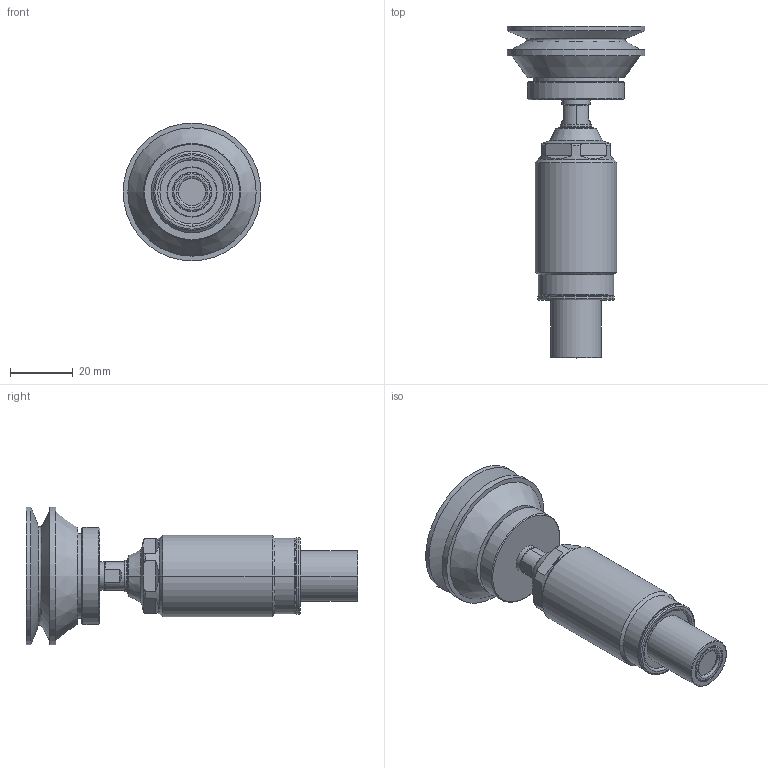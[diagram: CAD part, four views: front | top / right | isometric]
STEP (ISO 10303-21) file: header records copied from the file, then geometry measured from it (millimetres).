
FILE_DESCRIPTION(/* description */ (''),/* implementation_level */ '2;1');
FILE_NAME(/* name */ 'TNL26-Q-D加长吸附型.stp',/* time_stamp */ '2024-12-09T14:42:13+08:00',/* author */ (''),/* organization */ (''),/* preprocessor_version */ 'ST-DEVELOPER v16.7',/* originating_system */ 'SIEMENS PLM Software NX 12.0',/* authorisation */ '');
FILE_SCHEMA (('AP203_CONFIGURATION_CONTROLLED_3D_DESIGN_OF_MECHANICAL_PARTS_AND_ASSEMBLIES_MIM_LF { 1 0 10303 403 2 1 2}'));
Length unit declared in the file: millimetre
Products named in the file (9): TNL26-Q-09; TNL26-Q-08; TNL26-Q-07; TNL26-Q-06; TNL26-Q-5; TNL26-Q-4; TNL26-Q-2; TNL26-Q-1; TNL26-Q_stp
Assembly tree (8 placements, depth 2):
  TNL26-Q_stp
    TNL26-Q-1
    TNL26-Q-2
    TNL26-Q-4
    TNL26-Q-5
    TNL26-Q-06
    TNL26-Q-07
    TNL26-Q-08
    TNL26-Q-09
Bounding box: 44 x 106 x 44 mm (x, y, z)
Volume: 44168.9 mm3; surface area: 20271.3 mm2
Topology: 8 solids, 8 shells, 167 faces, 360 edges, 220 vertices
Faces by surface type: plane 55, torus 45, cylinder 42, cone 24, sphere 1
Full cylindrical faces by diameter (mm): 6 x1, 9 x1, 15.7 x1, 16 x1, 23 x1, 27 x1, 27.5 x1, 31 x1, 44 x2
Entity records: 5713 total; most frequent: CARTESIAN_POINT 1063, DIRECTION 854, ORIENTED_EDGE 660, AXIS2_PLACEMENT_3D 382, EDGE_CURVE 330, VERTEX_POINT 215, EDGE_LOOP 213, CIRCLE 206
